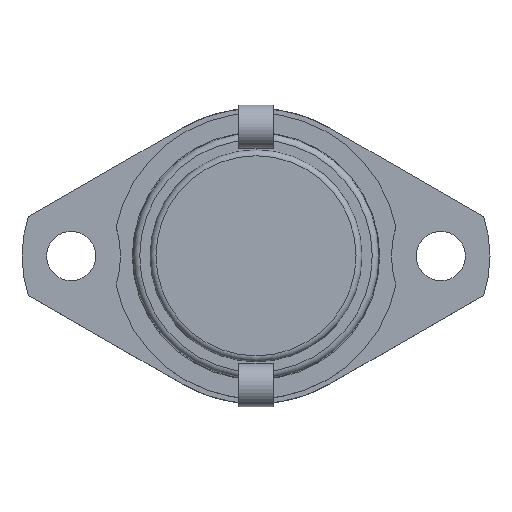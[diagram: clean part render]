
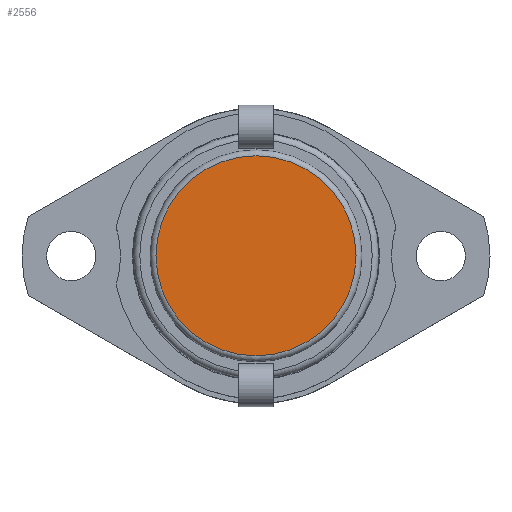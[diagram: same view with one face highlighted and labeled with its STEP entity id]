
A CAD part, top view. The second image highlights one B-rep face of the part: STEP entity #2556.
In plain terms, the highlighted planar face has unit normal (0, 0, 1).
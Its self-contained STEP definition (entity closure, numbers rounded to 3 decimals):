
#2540=CARTESIAN_POINT('',(0.0,10.15,17.1));
#2541=DIRECTION('',(0.0,0.0,1.0));
#2542=DIRECTION('',(1.0,0.0,0.0));
#2543=AXIS2_PLACEMENT_3D('',#2540,#2541,#2542);
#2544=PLANE('',#2543);
#2545=CARTESIAN_POINT('',(0.0,20.3,17.1));
#2546=VERTEX_POINT('',#2545);
#2547=CARTESIAN_POINT('',(0.0,0.,17.1));
#2548=DIRECTION('',(0.0,0.0,-1.0));
#2549=DIRECTION('',(0.0,1.0,0.0));
#2550=AXIS2_PLACEMENT_3D('',#2547,#2548,#2549);
#2551=CIRCLE('',#2550,20.3);
#2552=EDGE_CURVE('',#2546,#2546,#2551,.T.);
#2553=ORIENTED_EDGE('',*,*,#2552,.F.);
#2554=EDGE_LOOP('',(#2553));
#2555=FACE_OUTER_BOUND('',#2554,.T.);
#2556=ADVANCED_FACE('',(#2555),#2544,.T.);
